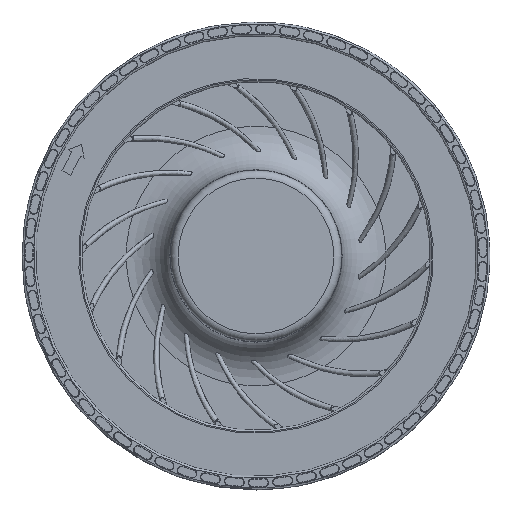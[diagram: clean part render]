
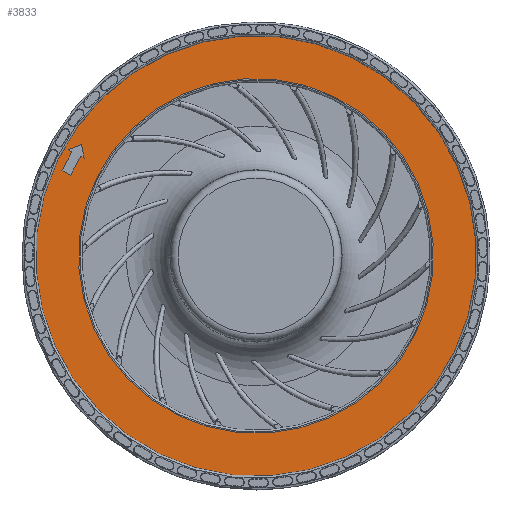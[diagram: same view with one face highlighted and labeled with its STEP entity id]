
A CAD part, top view. The second image highlights one B-rep face of the part: STEP entity #3833.
In plain terms, the highlighted planar face has unit normal (0, 0, 1).
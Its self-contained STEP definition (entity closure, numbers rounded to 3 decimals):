
#1092=FACE_BOUND('',#6798,.T.);
#1093=FACE_BOUND('',#6799,.T.);
#1094=FACE_BOUND('',#6800,.T.);
#1478=PLANE('',#25802);
#3833=ADVANCED_FACE('',(#1092,#1093,#1094),#1478,.T.);
#6798=EDGE_LOOP('',(#12483));
#6799=EDGE_LOOP('',(#12484));
#6800=EDGE_LOOP('',(#12485,#12486,#12487,#12488,#12489,#12490,#12491));
#8115=CIRCLE('',#25800,56.889);
#8116=CIRCLE('',#25801,45.823);
#12483=ORIENTED_EDGE('',*,*,#20512,.T.);
#12484=ORIENTED_EDGE('',*,*,#20513,.F.);
#12485=ORIENTED_EDGE('',*,*,#20511,.F.);
#12486=ORIENTED_EDGE('',*,*,#20510,.F.);
#12487=ORIENTED_EDGE('',*,*,#20508,.F.);
#12488=ORIENTED_EDGE('',*,*,#20506,.F.);
#12489=ORIENTED_EDGE('',*,*,#20504,.F.);
#12490=ORIENTED_EDGE('',*,*,#20502,.F.);
#12491=ORIENTED_EDGE('',*,*,#20500,.F.);
#17331=VERTEX_POINT('',#51916);
#17332=VERTEX_POINT('',#51918);
#17333=VERTEX_POINT('',#51922);
#17334=VERTEX_POINT('',#51926);
#17335=VERTEX_POINT('',#51930);
#17336=VERTEX_POINT('',#51934);
#17337=VERTEX_POINT('',#51938);
#17338=VERTEX_POINT('',#51944);
#17339=VERTEX_POINT('',#51946);
#20500=EDGE_CURVE('',#17332,#17331,#22856,.T.);
#20502=EDGE_CURVE('',#17331,#17333,#22858,.T.);
#20504=EDGE_CURVE('',#17333,#17334,#22860,.T.);
#20506=EDGE_CURVE('',#17334,#17335,#22862,.T.);
#20508=EDGE_CURVE('',#17335,#17336,#22864,.T.);
#20510=EDGE_CURVE('',#17336,#17337,#22866,.T.);
#20511=EDGE_CURVE('',#17337,#17332,#22867,.T.);
#20512=EDGE_CURVE('',#17338,#17338,#8115,.T.);
#20513=EDGE_CURVE('',#17339,#17339,#8116,.T.);
#22856=LINE('',#51919,#24187);
#22858=LINE('',#51923,#24189);
#22860=LINE('',#51927,#24191);
#22862=LINE('',#51931,#24193);
#22864=LINE('',#51935,#24195);
#22866=LINE('',#51939,#24197);
#22867=LINE('',#51941,#24198);
#24187=VECTOR('',#29339,1.);
#24189=VECTOR('',#29343,1.);
#24191=VECTOR('',#29347,1.);
#24193=VECTOR('',#29351,1.);
#24195=VECTOR('',#29355,1.);
#24197=VECTOR('',#29359,1.);
#24198=VECTOR('',#29362,1.);
#25800=AXIS2_PLACEMENT_3D('',#51943,#29365,#29366);
#25801=AXIS2_PLACEMENT_3D('',#51945,#29367,#29368);
#25802=AXIS2_PLACEMENT_3D('',#51947,#29369,#29370);
#29339=DIRECTION('',(0.469,0.883,0.));
#29343=DIRECTION('',(0.883,-0.469,0.));
#29347=DIRECTION('',(-0.198,0.98,0.));
#29351=DIRECTION('',(-0.923,-0.384,0.));
#29355=DIRECTION('',(0.883,-0.469,0.));
#29359=DIRECTION('',(-0.469,-0.883,0.));
#29362=DIRECTION('',(0.883,-0.469,0.));
#29365=DIRECTION('',(0.,0.,1.));
#29366=DIRECTION('',(0.961,-0.275,0.));
#29367=DIRECTION('',(0.,0.,1.));
#29368=DIRECTION('',(-0.961,0.275,0.));
#29369=DIRECTION('',(0.,0.,1.));
#29370=DIRECTION('',(-0.961,0.275,0.));
#51916=CARTESIAN_POINT('',(-45.285,25.723,1.55));
#51918=CARTESIAN_POINT('',(-47.882,20.837,1.55));
#51919=CARTESIAN_POINT('',(-47.882,20.837,1.55));
#51922=CARTESIAN_POINT('',(-44.353,25.227,1.55));
#51923=CARTESIAN_POINT('',(-45.285,25.723,1.55));
#51926=CARTESIAN_POINT('',(-45.074,28.8,1.55));
#51927=CARTESIAN_POINT('',(-44.353,25.227,1.55));
#51930=CARTESIAN_POINT('',(-48.439,27.399,1.55));
#51931=CARTESIAN_POINT('',(-45.074,28.8,1.55));
#51934=CARTESIAN_POINT('',(-47.506,26.903,1.55));
#51935=CARTESIAN_POINT('',(-48.439,27.399,1.55));
#51938=CARTESIAN_POINT('',(-50.103,22.017,1.55));
#51939=CARTESIAN_POINT('',(-47.506,26.903,1.55));
#51941=CARTESIAN_POINT('',(-50.103,22.017,1.55));
#51943=CARTESIAN_POINT('',(0.,0.,1.55));
#51944=CARTESIAN_POINT('',(54.688,-15.671,1.55));
#51945=CARTESIAN_POINT('',(0.,0.,1.55));
#51946=CARTESIAN_POINT('',(-44.05,12.623,1.55));
#51947=CARTESIAN_POINT('',(0.,0.,1.55));
